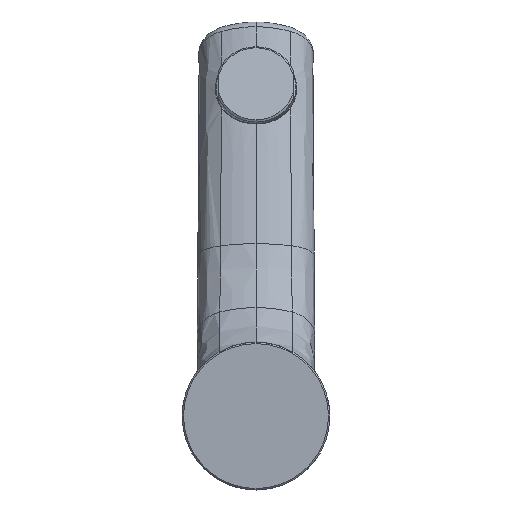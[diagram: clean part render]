
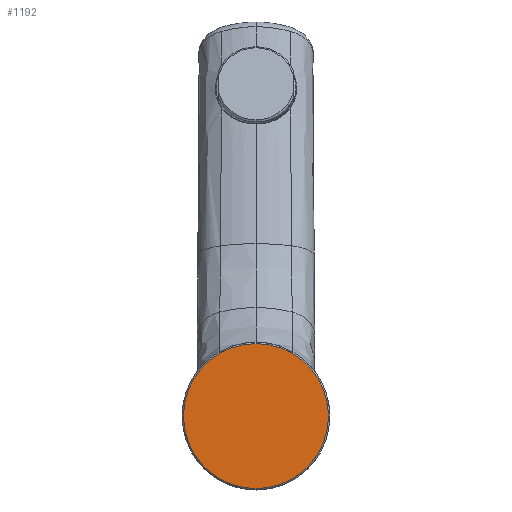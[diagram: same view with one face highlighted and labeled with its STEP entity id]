
A CAD part, front view. The second image highlights one B-rep face of the part: STEP entity #1192.
In plain terms, the highlighted planar face has unit normal (0, -1, 0).
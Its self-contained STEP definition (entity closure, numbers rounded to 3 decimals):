
#142 = CARTESIAN_POINT ( 'NONE',  ( 0., -0.5, -25.25 ) ) ;
#588 = DIRECTION ( 'NONE',  ( 0., -1., 0. ) ) ;
#1180 = VERTEX_POINT ( 'NONE', #4904 ) ;
#1192 = ADVANCED_FACE ( 'NONE', ( #10311 ), #5765, .T. ) ;
#2763 = ORIENTED_EDGE ( 'NONE', *, *, #9241, .F. ) ;
#2865 = EDGE_LOOP ( 'NONE', ( #2763, #5901 ) ) ;
#3906 = CARTESIAN_POINT ( 'NONE',  ( 0., -0.5, 0. ) ) ;
#4038 = CARTESIAN_POINT ( 'NONE',  ( 0., -0.5, -20.642 ) ) ;
#4209 = CARTESIAN_POINT ( 'NONE',  ( 0., -0.5, 0. ) ) ;
#4775 = DIRECTION ( 'NONE',  ( 0., 0., 1. ) ) ;
#4904 = CARTESIAN_POINT ( 'NONE',  ( 0., -0.5, 25.25 ) ) ;
#5066 = DIRECTION ( 'NONE',  ( 0., 0., 1. ) ) ;
#5687 = CIRCLE ( 'NONE', #6781, 25.25 ) ;
#5765 = PLANE ( 'NONE',  #10452 ) ;
#5901 = ORIENTED_EDGE ( 'NONE', *, *, #7465, .F. ) ;
#6635 = DIRECTION ( 'NONE',  ( 0., 0., -1. ) ) ;
#6781 = AXIS2_PLACEMENT_3D ( 'NONE', #4209, #10081, #5066 ) ;
#7465 = EDGE_CURVE ( 'NONE', #8902, #1180, #9616, .T. ) ;
#8902 = VERTEX_POINT ( 'NONE', #142 ) ;
#9241 = EDGE_CURVE ( 'NONE', #1180, #8902, #5687, .T. ) ;
#9495 = AXIS2_PLACEMENT_3D ( 'NONE', #3906, #9809, #4775 ) ;
#9616 = CIRCLE ( 'NONE', #9495, 25.25 ) ;
#9809 = DIRECTION ( 'NONE',  ( 0., 1., 0. ) ) ;
#10081 = DIRECTION ( 'NONE',  ( 0., 1., 0. ) ) ;
#10311 = FACE_OUTER_BOUND ( 'NONE', #2865, .T. ) ;
#10452 = AXIS2_PLACEMENT_3D ( 'NONE', #4038, #588, #6635 ) ;
